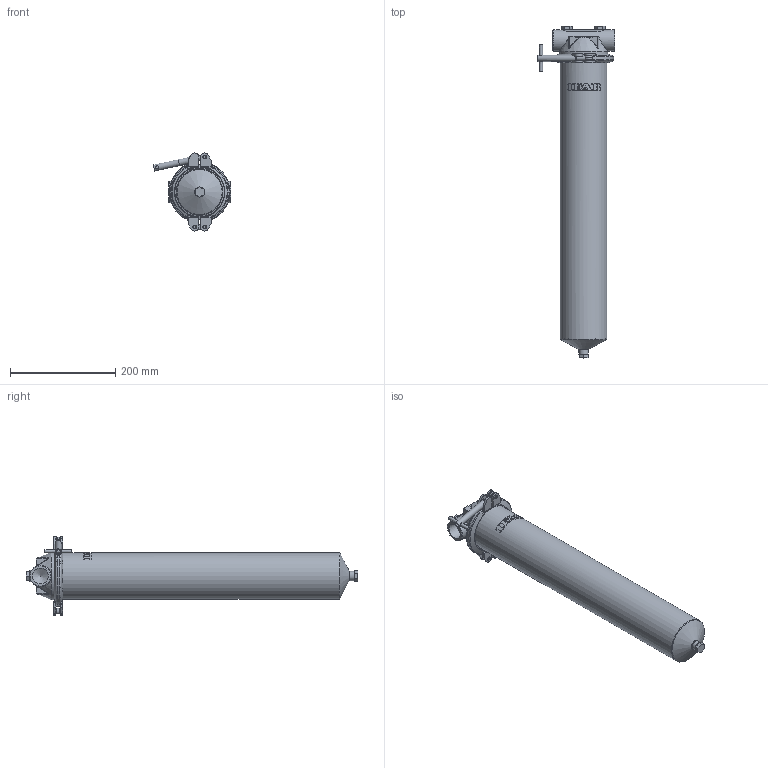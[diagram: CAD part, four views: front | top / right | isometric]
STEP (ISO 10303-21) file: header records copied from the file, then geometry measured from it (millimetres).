
FILE_DESCRIPTION(/* description */ (''),/* implementation_level */ '2;1');
FILE_NAME(/* name */ 'H:\Projekt\IFAB\10633 3D-modell filterhus\IFAB CFH-1-M 20.stp',/* time_stamp */ '2014-03-13T08:23:03+01:00',/* author */ ('Hans.Olsson'),/* organization */ (''),/* preprocessor_version */ 'ST-DEVELOPER v15.2',/* originating_system */ 'Autodesk Inventor 2014',/* authorisation */ '');
FILE_SCHEMA (('AUTOMOTIVE_DESIGN { 1 0 10303 214 3 1 1 }'));
Length unit declared in the file: millimetre
Products named in the file (1): 10633 Filterhus
Bounding box: 146.84 x 629.85 x 148 mm (x, y, z)
Volume: 484702.3 mm3; surface area: 381945.7 mm2
Topology: 4 solids, 4 shells, 408 faces, 1143 edges, 753 vertices
Faces by surface type: plane 209, cylinder 90, bspline 63, cone 25, torus 21
Full cylindrical faces by diameter (mm): 4.134 x4, 6 x6, 7 x9, 8 x2, 11.445 x1, 12 x1, 15.6 x1, 17.6 x1, 21 x2, 30.291 x2, 40.3 x1, 86.6 x1, 88.6 x1, 91 x1, 103.4 x1, 105.4 x1, 106 x1
Entity records: 17711 total; most frequent: CARTESIAN_POINT 7891, ORIENTED_EDGE 2132, DIRECTION 1800, EDGE_CURVE 1066, VERTEX_POINT 732, AXIS2_PLACEMENT_3D 663, EDGE_LOOP 508, LINE 474
